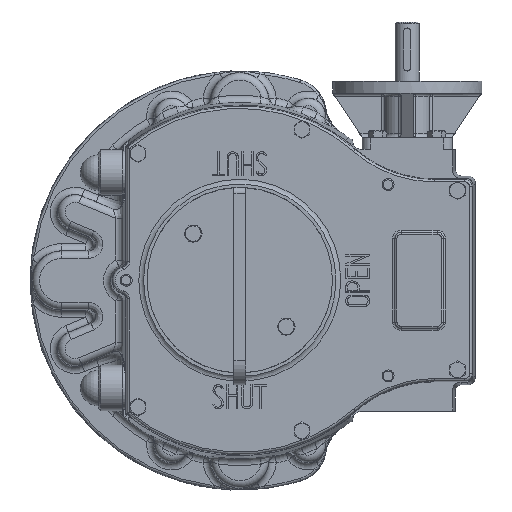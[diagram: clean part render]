
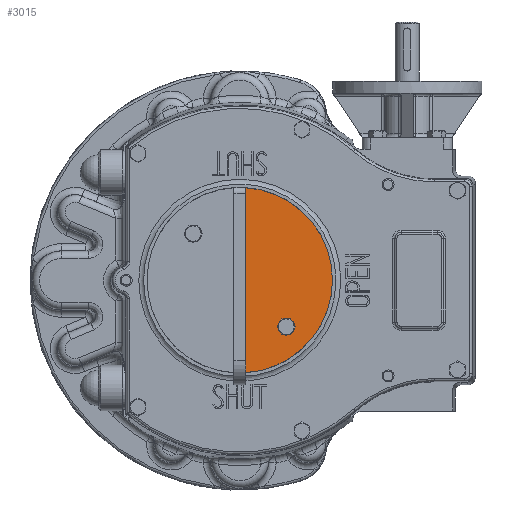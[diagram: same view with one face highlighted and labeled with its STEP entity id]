
A CAD part, top view. The second image highlights one B-rep face of the part: STEP entity #3015.
In plain terms, the highlighted planar face has unit normal (0, 0, 1).
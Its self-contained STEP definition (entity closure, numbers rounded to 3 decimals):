
#3015 = ADVANCED_FACE( '', ( #7130, #7131 ), #7132, .F. );
#7130 = FACE_BOUND( '', #21535, .T. );
#7131 = FACE_OUTER_BOUND( '', #21536, .T. );
#7132 = PLANE( '', #21537 );
#21535 = EDGE_LOOP( '', ( #45454 ) );
#21536 = EDGE_LOOP( '', ( #45455, #45456 ) );
#21537 = AXIS2_PLACEMENT_3D( '', #45457, #45458, #45459 );
#45454 = ORIENTED_EDGE( '', *, *, #56191, .T. );
#45455 = ORIENTED_EDGE( '', *, *, #56192, .F. );
#45456 = ORIENTED_EDGE( '', *, *, #56193, .F. );
#45457 = CARTESIAN_POINT( '', ( 0., 0., 139. ) );
#45458 = DIRECTION( '', ( 0., 0., -1. ) );
#45459 = DIRECTION( '', ( 0., -1., 0. ) );
#56191 = EDGE_CURVE( '', #63287, #63287, #63288, .T. );
#56192 = EDGE_CURVE( '', #61210, #63289, #63290, .T. );
#56193 = EDGE_CURVE( '', #63289, #61210, #63291, .T. );
#61210 = VERTEX_POINT( '', #75290 );
#63287 = VERTEX_POINT( '', #82053 );
#63288 = CIRCLE( '', #82054, 7. );
#63289 = VERTEX_POINT( '', #82055 );
#63290 = LINE( '', #82056, #82057 );
#63291 = CIRCLE( '', #82058, 77.5 );
#75290 = CARTESIAN_POINT( '', ( 5., -77.339, 139. ) );
#82053 = CARTESIAN_POINT( '', ( 31.891, -38.891, 139. ) );
#82054 = AXIS2_PLACEMENT_3D( '', #94857, #94858, #94859 );
#82055 = CARTESIAN_POINT( '', ( 5., 77.339, 139. ) );
#82056 = CARTESIAN_POINT( '', ( 5., -87.5, 139. ) );
#82057 = VECTOR( '', #94860, 1000. );
#82058 = AXIS2_PLACEMENT_3D( '', #94861, #94862, #94863 );
#94857 = CARTESIAN_POINT( '', ( 38.891, -38.891, 139. ) );
#94858 = DIRECTION( '', ( 0., 0., -1. ) );
#94859 = DIRECTION( '', ( -1., 0., 0. ) );
#94860 = DIRECTION( '', ( 0., 1., 0. ) );
#94861 = CARTESIAN_POINT( '', ( 0., 0., 139. ) );
#94862 = DIRECTION( '', ( 0., 0., -1. ) );
#94863 = DIRECTION( '', ( 0., 1., 0. ) );
